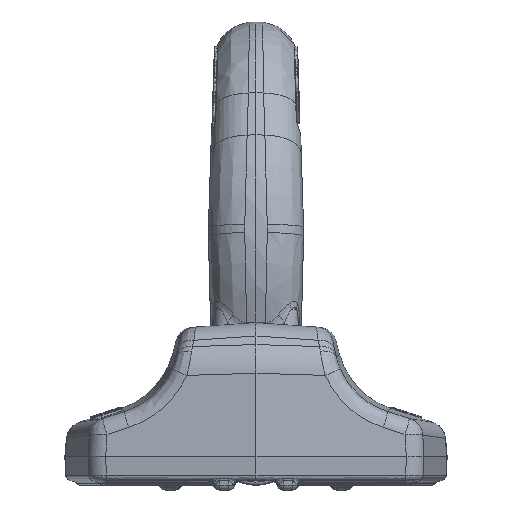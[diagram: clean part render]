
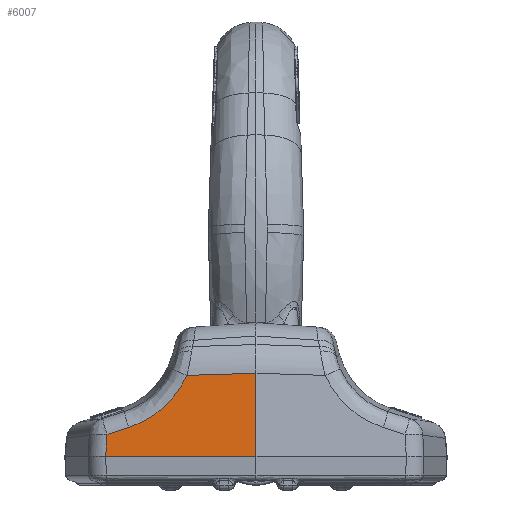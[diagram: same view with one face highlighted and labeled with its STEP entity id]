
A CAD part, left-side view. The second image highlights one B-rep face of the part: STEP entity #6007.
In plain terms, the highlighted planar face has unit normal (-0.995, 0.07, 0.07).
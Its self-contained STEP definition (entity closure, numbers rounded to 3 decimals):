
#2954=FACE_OUTER_BOUND('',#9202,.T.);
#6007=ADVANCED_FACE('',(#2954),#7940,.T.);
#7940=PLANE('',#33268);
#8355=ELLIPSE('',#33266,32.31,32.);
#9202=EDGE_LOOP('',(#12983,#12984,#12985,#12986,#12987,#12988));
#11404=(
BOUNDED_CURVE()
B_SPLINE_CURVE(3,(#52582,#52583,#52584,#52585,#52586),.UNSPECIFIED.,.F.,
 .F.)
B_SPLINE_CURVE_WITH_KNOTS((4,1,4),(0.,0.046,1.),.UNSPECIFIED.)
CURVE()
GEOMETRIC_REPRESENTATION_ITEM()
RATIONAL_B_SPLINE_CURVE((1.,1.,1.,1.,1.))
REPRESENTATION_ITEM('')
);
#11412=(
BOUNDED_CURVE()
B_SPLINE_CURVE(3,(#53257,#53258,#53259,#53260,#53261),.UNSPECIFIED.,.F.,
 .F.)
B_SPLINE_CURVE_WITH_KNOTS((4,1,4),(0.,0.962,1.),.UNSPECIFIED.)
CURVE()
GEOMETRIC_REPRESENTATION_ITEM()
RATIONAL_B_SPLINE_CURVE((1.,1.,1.,1.,1.))
REPRESENTATION_ITEM('')
);
#12983=ORIENTED_EDGE('',*,*,#25578,.F.);
#12984=ORIENTED_EDGE('',*,*,#25579,.F.);
#12985=ORIENTED_EDGE('',*,*,#25576,.F.);
#12986=ORIENTED_EDGE('',*,*,#25577,.F.);
#12987=ORIENTED_EDGE('',*,*,#25562,.F.);
#12988=ORIENTED_EDGE('',*,*,#25580,.F.);
#22360=VERTEX_POINT('',#49052);
#22411=VERTEX_POINT('',#51755);
#22426=VERTEX_POINT('',#53072);
#22427=VERTEX_POINT('',#53169);
#22428=VERTEX_POINT('',#53254);
#22429=VERTEX_POINT('',#53255);
#25562=EDGE_CURVE('',#22411,#22360,#11404,.T.);
#25576=EDGE_CURVE('',#22427,#22426,#8355,.T.);
#25577=EDGE_CURVE('',#22360,#22427,#30188,.T.);
#25578=EDGE_CURVE('',#22428,#22429,#30189,.T.);
#25579=EDGE_CURVE('',#22426,#22428,#30190,.T.);
#25580=EDGE_CURVE('',#22429,#22411,#11412,.T.);
#30188=LINE('',#53251,#31709);
#30189=LINE('',#53253,#31710);
#30190=LINE('',#53256,#31711);
#31709=VECTOR('',#36214,1.);
#31710=VECTOR('',#36217,1.);
#31711=VECTOR('',#36218,1.);
#33266=AXIS2_PLACEMENT_3D('',#53170,#36212,#36213);
#33268=AXIS2_PLACEMENT_3D('',#53262,#36219,#36220);
#36212=DIRECTION('',(-0.995,0.07,0.07));
#36213=DIRECTION('',(-0.099,-0.709,-0.698));
#36214=DIRECTION('',(-0.045,-0.951,0.307));
#36217=DIRECTION('',(-0.07,0.,-0.998));
#36218=DIRECTION('',(-0.068,-0.997,0.031));
#36219=DIRECTION('',(-0.995,0.07,0.07));
#36220=DIRECTION('',(-0.07,0.,-0.998));
#49052=CARTESIAN_POINT('',(-127.936,-14.45,1.845));
#51755=CARTESIAN_POINT('',(-128.418,-14.041,-5.439));
#52582=CARTESIAN_POINT('',(-128.549,-13.917,-7.431));
#52583=CARTESIAN_POINT('',(-128.505,-13.955,-6.767));
#52584=CARTESIAN_POINT('',(-127.558,-14.779,7.564));
#52585=CARTESIAN_POINT('',(-126.612,-15.602,21.895));
#52586=CARTESIAN_POINT('',(-125.709,-16.387,35.561));
#53072=CARTESIAN_POINT('',(-128.42,-40.98,21.503));
#53169=CARTESIAN_POINT('',(-128.28,-21.679,4.181));
#53170=CARTESIAN_POINT('',(-125.438,-11.683,34.705));
#53251=CARTESIAN_POINT('',(-128.549,-27.347,6.013));
#53253=CARTESIAN_POINT('',(-131.113,-64.,6.149));
#53254=CARTESIAN_POINT('',(-129.986,-64.,22.213));
#53255=CARTESIAN_POINT('',(-131.925,-64.,-5.439));
#53256=CARTESIAN_POINT('',(-128.75,-45.823,21.652));
#53257=CARTESIAN_POINT('',(-131.925,-64.,-5.439));
#53258=CARTESIAN_POINT('',(-130.73,-46.974,-5.439));
#53259=CARTESIAN_POINT('',(-129.488,-29.283,-5.439));
#53260=CARTESIAN_POINT('',(-128.246,-11.592,-5.439));
#53261=CARTESIAN_POINT('',(-128.199,-10.927,-5.439));
#53262=CARTESIAN_POINT('',(-128.702,-38.561,15.061));
